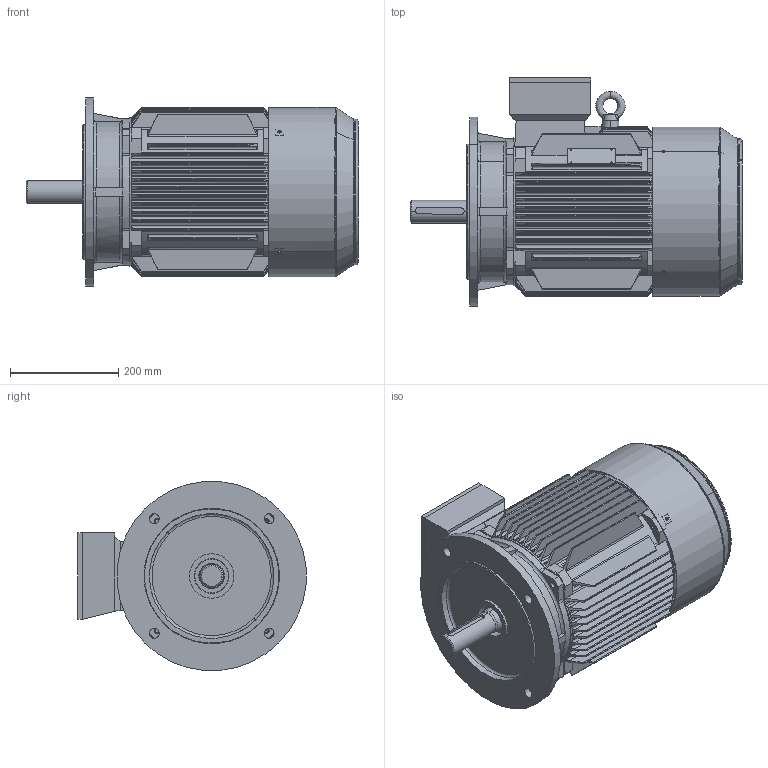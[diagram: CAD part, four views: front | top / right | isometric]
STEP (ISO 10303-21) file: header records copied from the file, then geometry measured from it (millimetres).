
FILE_DESCRIPTION (( 'STEP AP214' ), '1' );
FILE_NAME ('M3-160M-FF-B5.STEP', '2019-05-24T09:32:42', ( '' ), ( '' ), 'SwSTEP 2.0', 'SolidWorks 2012', '' );
FILE_SCHEMA (( 'AUTOMOTIVE_DESIGN' ));
Products named in the file (10): Y2-160_shaft; Y2-160M+ｷﾎｨ(B5)_-ｼ+､; ﾎｦ+ﾕY2-160､ｯｦ-ｼ+､; Y2-160､ｯｦｨ_-ｼ+､; Y2-160-180､ｯｦﾃ_-ｼ+､; Y2-160-2ｦｾﾂ-ｩﾃ_-ｼ+､; ﾀiﾍMN2-160_-ｼ+､; Y2-160-4炫6炫8-ｦﾈﾁﾂ-ｩﾃ_-ｼ+､; Eyebolts GB_GB_FASTENER_SCREWS_FRS M12; M3-160M-FF-B5
Assembly tree (9 placements, depth 3):
  M3-160M-FF-B5
    Eyebolts GB_GB_FASTENER_SCREWS_FRS M12
    Y2-160-4炫6炫8-ｦﾈﾁﾂ-ｩﾃ_-ｼ+､
    ﾀiﾍMN2-160_-ｼ+､
    Y2-160-2ｦｾﾂ-ｩﾃ_-ｼ+､
    ﾎｦ+ﾕY2-160､ｯｦ-ｼ+､
      Y2-160-180､ｯｦﾃ_-ｼ+､
      Y2-160､ｯｦｨ_-ｼ+､
    Y2-160M+ｷﾎｨ(B5)_-ｼ+､
    Y2-160_shaft
Bounding box: 613 x 421.33 x 348.67 mm (x, y, z)
Volume: 8394932.5 mm3; surface area: 2202503.4 mm2
Topology: 8 solids, 8 shells, 1251 faces, 3345 edges, 2116 vertices
Faces by surface type: cylinder 567, plane 377, bspline 245, cone 62
Entity records: 71289 total; most frequent: CARTESIAN_POINT 42854, ORIENTED_EDGE 6570, DIRECTION 4657, EDGE_CURVE 3285, VERTEX_POINT 2116, AXIS2_PLACEMENT_3D 1687, EDGE_LOOP 1427, B_SPLINE_CURVE_WITH_KNOTS 1291
